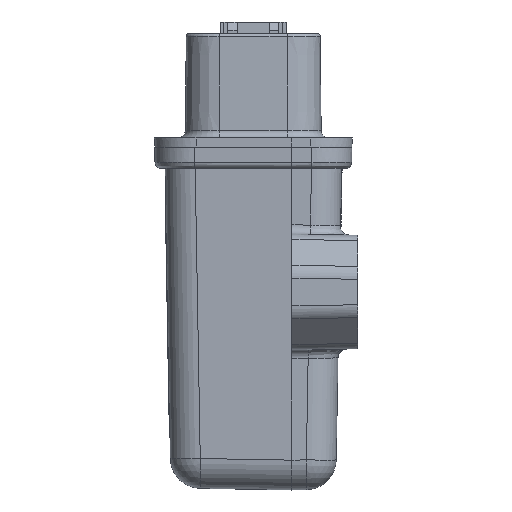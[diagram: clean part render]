
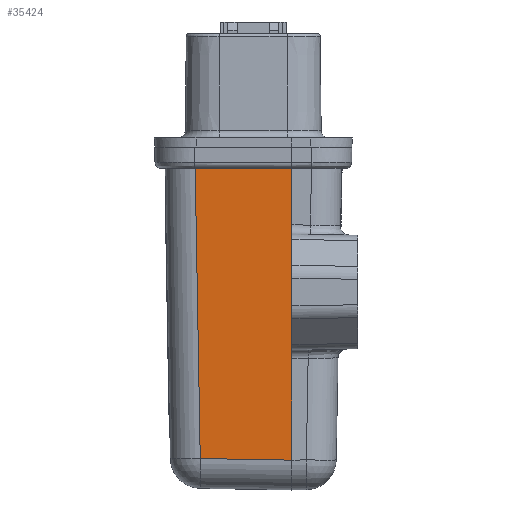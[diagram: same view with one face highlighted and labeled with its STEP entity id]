
A CAD part, left-side view. The second image highlights one B-rep face of the part: STEP entity #35424.
In plain terms, the highlighted planar face has unit normal (-1, 0.018, -0.017).
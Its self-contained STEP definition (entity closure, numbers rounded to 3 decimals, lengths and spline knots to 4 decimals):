
#2934=FACE_OUTER_BOUND('',#4970,.T.);
#4970=EDGE_LOOP('',(#28367,#28368,#28369,#28370,#28371,#28372));
#8258=LINE('',#58156,#11577);
#8362=LINE('',#59220,#11681);
#8366=LINE('',#59235,#11685);
#8367=LINE('',#59237,#11686);
#8368=LINE('',#59239,#11687);
#8369=LINE('',#59240,#11688);
#11577=VECTOR('',#42622,0.6264);
#11681=VECTOR('',#42940,0.8682);
#11685=VECTOR('',#42954,0.3652);
#11686=VECTOR('',#42955,1.8787);
#11687=VECTOR('',#42956,0.5937);
#11688=VECTOR('',#42957,0.6553);
#15477=VERTEX_POINT('',#57882);
#15501=VERTEX_POINT('',#58065);
#15527=VERTEX_POINT('',#58152);
#15529=VERTEX_POINT('',#58155);
#15707=VERTEX_POINT('',#59236);
#15708=VERTEX_POINT('',#59238);
#19844=EDGE_CURVE('',#15529,#15527,#8258,.T.);
#20065=EDGE_CURVE('',#15501,#15477,#8362,.T.);
#20073=EDGE_CURVE('',#15477,#15529,#8366,.T.);
#20074=EDGE_CURVE('',#15707,#15527,#8367,.T.);
#20075=EDGE_CURVE('',#15708,#15707,#8368,.T.);
#20076=EDGE_CURVE('',#15708,#15501,#8369,.T.);
#28367=ORIENTED_EDGE('',*,*,#20065,.T.);
#28368=ORIENTED_EDGE('',*,*,#20073,.T.);
#28369=ORIENTED_EDGE('',*,*,#19844,.T.);
#28370=ORIENTED_EDGE('',*,*,#20074,.F.);
#28371=ORIENTED_EDGE('',*,*,#20075,.F.);
#28372=ORIENTED_EDGE('',*,*,#20076,.T.);
#32046=PLANE('',#37102);
#35424=ADVANCED_FACE('',(#2934),#32046,.T.);
#37102=AXIS2_PLACEMENT_3D('',#59234,#42952,#42953);
#42622=DIRECTION('',(0.017,1.,0.));
#42940=DIRECTION('',(-0.017,0.,1.));
#42952=DIRECTION('center_axis',(-1.,0.017,-0.017));
#42953=DIRECTION('ref_axis',(0.017,1.,0.));
#42954=DIRECTION('',(-0.017,0.,1.));
#42955=DIRECTION('',(-0.017,0.017,1.));
#42956=DIRECTION('',(0.017,1.,0.017));
#42957=DIRECTION('',(-0.017,0.,1.));
#57882=CARTESIAN_POINT('',(-0.7811,0.0433,0.5846));
#58065=CARTESIAN_POINT('',(-0.766,0.0433,-0.2835));
#58152=CARTESIAN_POINT('',(-0.7766,0.6696,0.9497));
#58155=CARTESIAN_POINT('',(-0.7875,0.0433,0.9497));
#58156=CARTESIAN_POINT('',(-0.778,0.5851,0.9497));
#59220=CARTESIAN_POINT('',(-0.7898,0.0433,1.0793));
#59234=CARTESIAN_POINT('Origin',(-0.7756,0.8653,1.0878));
#59235=CARTESIAN_POINT('',(-0.7898,0.0433,1.0793));
#59236=CARTESIAN_POINT('',(-0.7443,0.6369,-0.9284));
#59237=CARTESIAN_POINT('',(-0.7787,0.6719,1.0775));
#59238=CARTESIAN_POINT('',(-0.7545,0.0433,-0.9387));
#59239=CARTESIAN_POINT('',(-0.745,0.6013,-0.929));
#59240=CARTESIAN_POINT('',(-0.7898,0.0433,1.0793));
